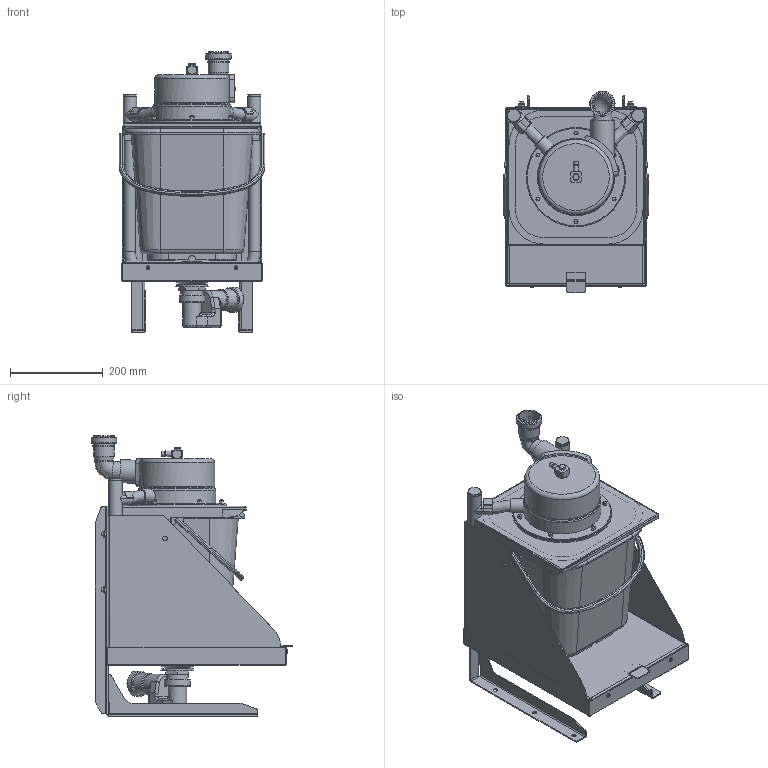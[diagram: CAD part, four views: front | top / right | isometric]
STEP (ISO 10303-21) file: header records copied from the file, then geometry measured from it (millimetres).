
FILE_DESCRIPTION(/* description */ (''),/* implementation_level */ '2;1');
FILE_NAME(/* name */ 'D:\Projekte\WMF\9011_Satzabscheider\9011_Satzabscheider_3D.stp',/* time_stamp */ '2019-03-24T10:24:44+01:00',/* author */ ('AM'),/* organization */ (''),/* preprocessor_version */ 'ST-DEVELOPER v17',/* originating_system */ 'Autodesk Inventor 2018',/* authorisation */ '');
FILE_SCHEMA (('AUTOMOTIVE_DESIGN { 1 0 10303 214 3 1 1 }'));
Length unit declared in the file: millimetre
Products named in the file (1): 9011_satzabscheider
Bounding box: 314 x 434.25 x 604.2 mm (x, y, z)
Volume: 4987402.8 mm3; surface area: 2519214.9 mm2
Topology: 1 solids, 7 shells, 1048 faces, 2690 edges, 1682 vertices
Faces by surface type: plane 492, cylinder 323, cone 93, torus 85, bspline 43, sphere 12
Full cylindrical faces by diameter (mm): 6 x2, 8 x9, 8.2 x2, 9 x10, 11 x2, 12 x1, 13 x4, 20.4 x2, 24.4 x10, 25 x2, 28 x2, 29 x2, 30 x2, 36 x1, 36.5 x2, 40 x5, 41 x2, 44.5 x3, 45 x2, 47.5 x1, 47.8 x2, 50 x1, 54 x1, 54.5 x1, 56 x1, 68 x1, 71 x1, 166.6 x1, 210 x1, 214 x1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
Entity records: 34468 total; most frequent: CARTESIAN_POINT 8813, DIRECTION 5493, ORIENTED_EDGE 5366, EDGE_CURVE 2683, AXIS2_PLACEMENT_3D 2053, VERTEX_POINT 1682, LINE 1387, VECTOR 1387
